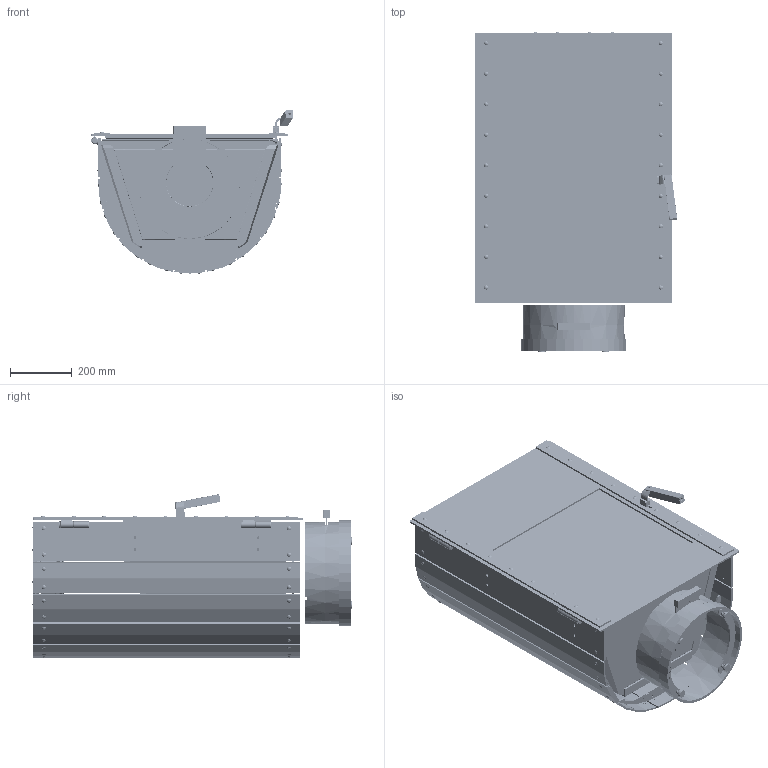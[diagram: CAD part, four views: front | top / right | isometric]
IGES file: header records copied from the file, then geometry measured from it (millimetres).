
Start section: SolidWorks IGES file using analytic representation for surfaces
Global section: file name: L:\Ontwikkeling\Tekeningen\Internet modellen\Stor\Harrie Leenders Stor.IGS; native system: SolidWorks 2015; preprocessor: SolidWorks 2015; author: Rob; date: 150305.132227; units: millimetre
Bounding box: 656.3 x 1037.25 x 529.55 mm (x, y, z)
Surface area: 6571546.3 mm2 (no closed solid volume)
Topology: 0 solids, 0 shells, 2265 faces, 33908 edges, 33812 vertices
Faces by surface type: revolution 1142, bspline 1123
